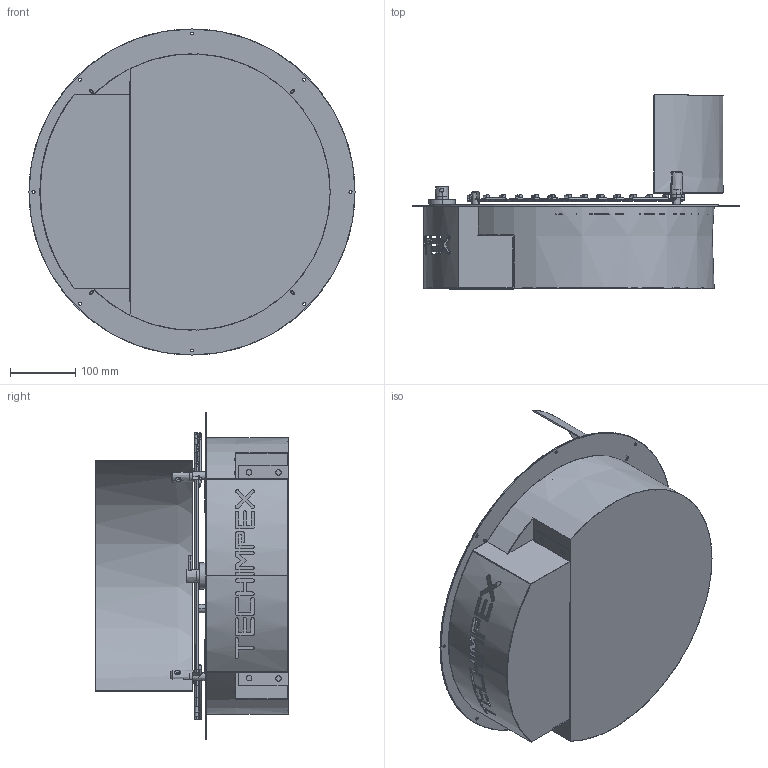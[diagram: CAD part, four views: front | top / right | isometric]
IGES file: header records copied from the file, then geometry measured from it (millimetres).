
Start section: SolidWorks IGES file using analytic representation for surfaces
Global section: file name: \\Pc1\share\DAVIDE\MODELLI 3D\Iges50.IGS; native system: SolidWorks 2008; preprocessor: SolidWorks 2008; author: User; date: 091023.114710; units: millimetre
Bounding box: 500 x 297 x 500 mm (x, y, z)
Surface area: 1747682 mm2 (no closed solid volume)
Topology: 0 solids, 0 shells, 1093 faces, 19195 edges, 19164 vertices
Faces by surface type: bspline 640, revolution 453
